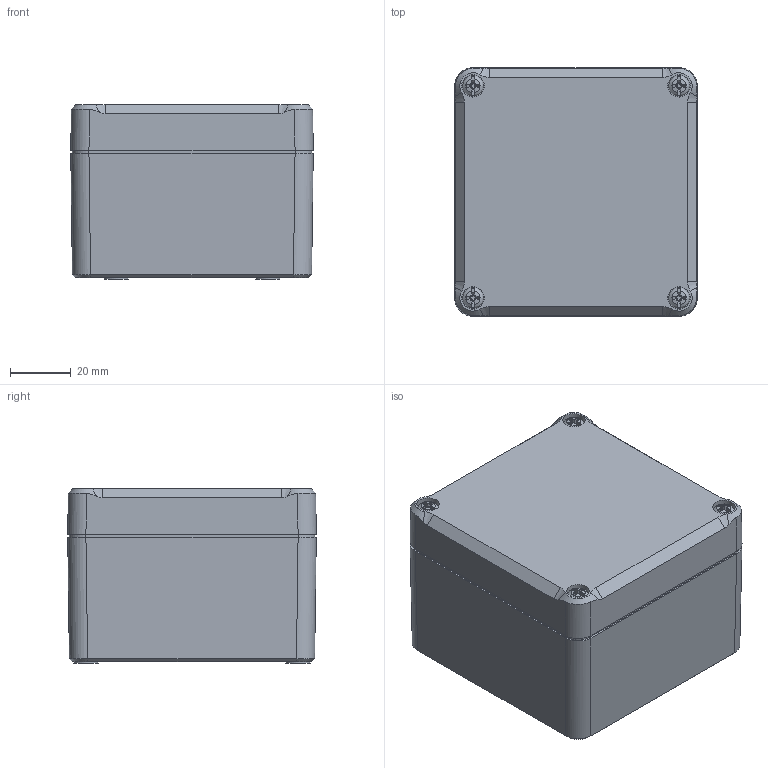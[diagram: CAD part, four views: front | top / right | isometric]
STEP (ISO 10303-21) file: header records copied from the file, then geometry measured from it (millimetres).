
FILE_DESCRIPTION((''),'2;1');
FILE_NAME('F:\User\Daten\Internet-3D-Daten\Euromas II\62210000_EM 210.stp','2009-09-02T07:42:22',('Kotzmaier'),(''),'Autodesk Inventor 2009','Autodesk Inventor 2009','');
FILE_SCHEMA(('AUTOMOTIVE_DESIGN { 1 0 10303 214 1 1 1 1 }'));
Length unit declared in the file: millimetre
Products named in the file (4): EM 210; 210 UT_1002737_3DSYM; 210&225 OT_1002736_3DSYM; SHR Z KAL40X25X10 WN 1412 MG_3DSYM
Assembly tree (6 placements, depth 2):
  EM 210
    210 UT_1002737_3DSYM
    210&225 OT_1002736_3DSYM
    SHR Z KAL40X25X10 WN 1412 MG_3DSYM  x4
Bounding box: 80 x 82 x 57.5 mm (x, y, z)
Volume: 39924.4 mm3; surface area: 70521.9 mm2
Topology: 5 solids, 6 shells, 776 faces, 1880 edges, 1149 vertices
Faces by surface type: plane 239, cylinder 215, bspline 144, cone 102, torus 76
Full cylindrical faces by diameter (mm): 2.4 x11, 2.9 x4, 3.2 x4, 4.2 x4, 4.5 x4, 7 x4, 7.4 x4, 8 x8
Entity records: 16967 total; most frequent: CARTESIAN_POINT 6221, DIRECTION 2329, ORIENTED_EDGE 2064, EDGE_CURVE 1032, AXIS2_PLACEMENT_3D 943, VERTEX_POINT 681, EDGE_LOOP 603, FACE_OUTER_BOUND 472
